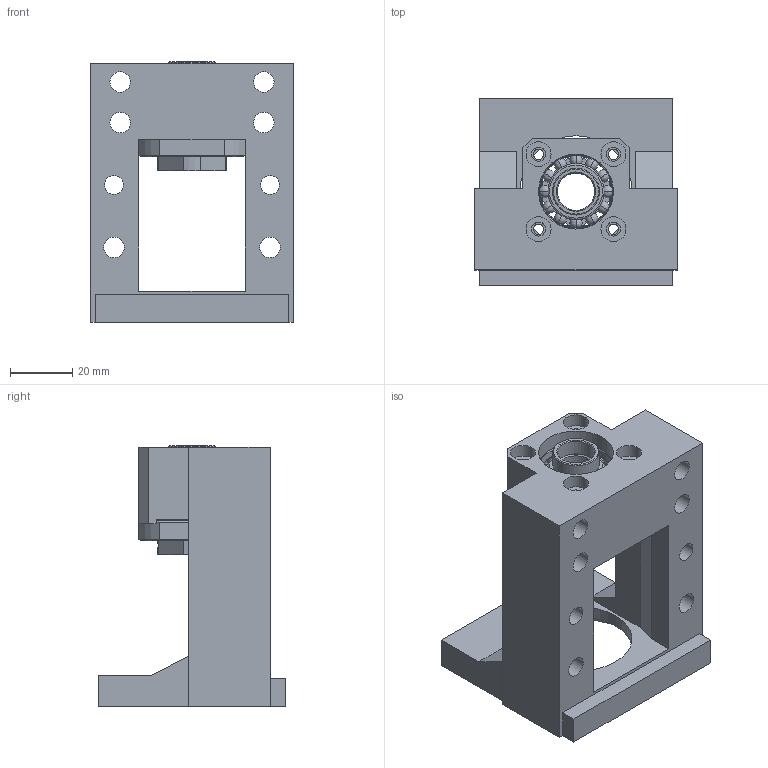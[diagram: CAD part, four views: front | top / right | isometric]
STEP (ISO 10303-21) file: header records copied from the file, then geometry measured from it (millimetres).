
FILE_DESCRIPTION(/* description */ (''),/* implementation_level */ '2;1');
FILE_NAME(/* name */ 'M60DP-BK12-C.stp',/* time_stamp */ '2017-07-03T09:09:04+08:00',/* author */ (''),/* organization */ (''),/* preprocessor_version */ 'ST-DEVELOPER v15',/* originating_system */ 'SIEMENS PLM Software NX 9.0',/* authorisation */ '');
FILE_SCHEMA (('CONFIG_CONTROL_DESIGN'));
Length unit declared in the file: millimetre
Products named in the file (5): MBCB12-DP_2; MBCB12-DP_1; MBCB12-DP; MBCB12-DP_3; MBCB12-DP_4
Assembly tree (6 placements, depth 2):
  MBCB12-DP_4
    MBCB12-DP_3  x2
    MBCB12-DP
    MBCB12-DP_1  x2
    MBCB12-DP_2
Bounding box: 65 x 60 x 83.5 mm (x, y, z)
Volume: 100891 mm3; surface area: 44055.3 mm2
Topology: 33 solids, 33 shells, 238 faces, 598 edges, 341 vertices
Faces by surface type: plane 78, cylinder 60, sphere 48, cone 32, torus 20
Full cylindrical faces by diameter (mm): 3.3 x9, 4.5 x4, 6 x2, 6.6 x8, 8 x4, 11 x2, 12 x5, 15 x2, 17 x1, 18 x4, 24 x2, 28 x4, 36 x1, 50 x1
Entity records: 5384 total; most frequent: CARTESIAN_POINT 923, DIRECTION 838, ORIENTED_EDGE 636, AXIS2_PLACEMENT_3D 349, EDGE_CURVE 318, EDGE_LOOP 310, VERTEX_POINT 254, FACE_BOUND 229
